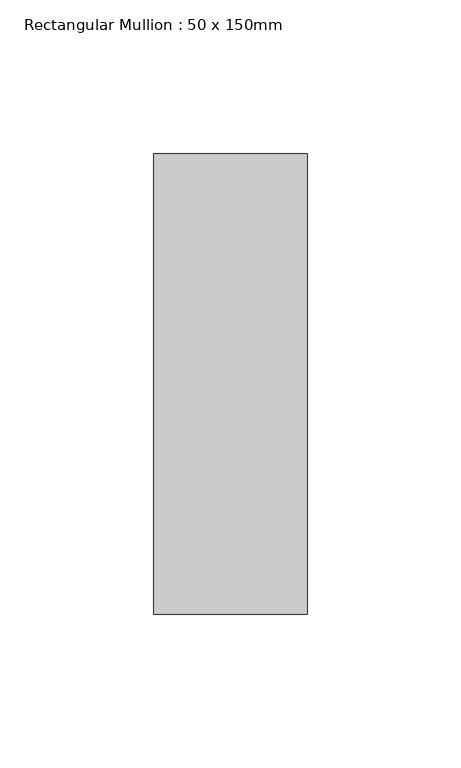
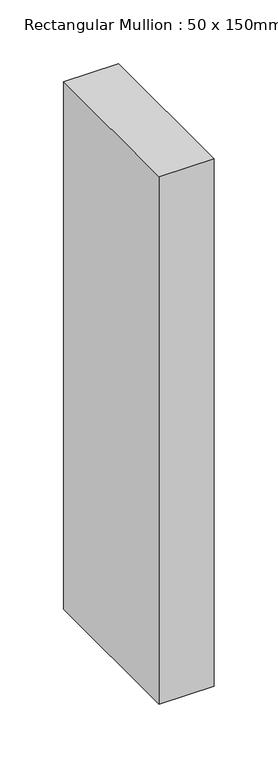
"""IFC4 building model written with IfcOpenShell, lengths in millimetres: member geometry, Rectangular Mullion : 50 x 150mm."""

from ifc_helpers import new_model, si_unit, frame, origin, place, context, project, spatial, polyline, outline, extrude, source, transform, mapped, element, save


def rectangular_mullion_50_x_150mm_0c16550b(model_context):
    return source(origin(), model_context, "Body", "SweptSolid", [
        extrude(outline(polyline([(0.0, 75.0), (0.0, -75.0), (-50.0, -75.0), (-50.0, 75.0), (0.0, 75.0)])), frame((0.0, 0.0, -505.2574105), z_axis=(0.0, 0.0, 1.0), x_axis=(1.0, 0.0, 0.0)), (0.0, 0.0, 1.0), 505.2574105),
    ])


if __name__ == "__main__":
    model = new_model("IFC4")
    model_context = context("Model", 3, world=origin())
    ifc_project = project(units=[si_unit("LENGTHUNIT", "METRE", prefix="MILLI")], contexts=[model_context])
    site = spatial("IfcSite", under=ifc_project)
    building = spatial("IfcBuilding", under=site)
    placement = place(None, origin())
    rectangular_mullion_50_x_150mm_shape = rectangular_mullion_50_x_150mm_0c16550b(model_context)
    element("IfcMember", 1, ObjectType="Rectangular Mullion : 50 x 150mm", at=placement, inside=building, context=model_context, shape_type="MappedRepresentation", body=[
        mapped(rectangular_mullion_50_x_150mm_shape, transform((0.0, 0.0, 0.0), x_axis=(1.0, 0.0, 0.0), y_axis=(0.0, 1.0, 0.0), z_axis=(0.0, 0.0, 1.0))),
    ])
    save(model, "model.ifc")
